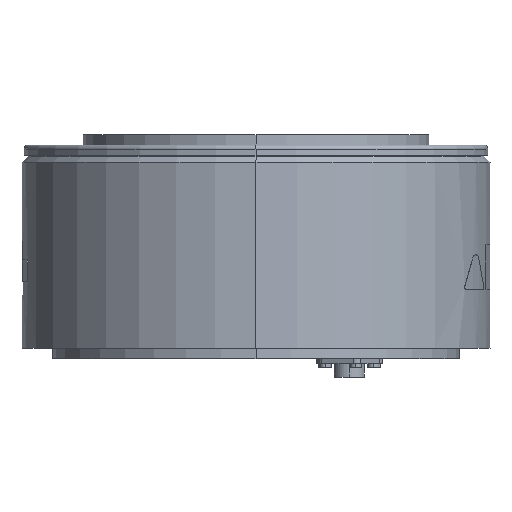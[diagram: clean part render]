
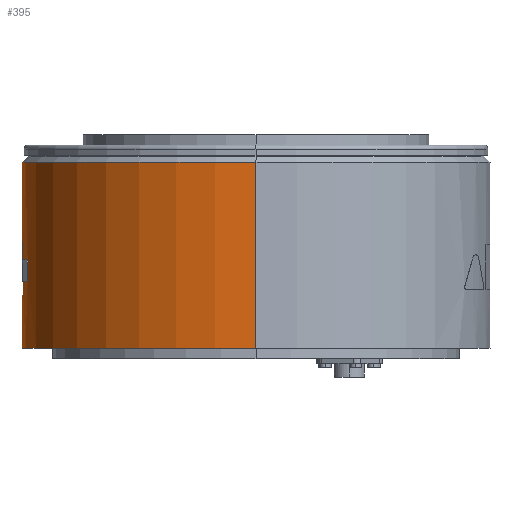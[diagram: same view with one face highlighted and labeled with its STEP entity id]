
A CAD part, left-side view. The second image highlights one B-rep face of the part: STEP entity #395.
In plain terms, the highlighted cylindrical face has radius 115 mm (diameter 230 mm), a partial arc.
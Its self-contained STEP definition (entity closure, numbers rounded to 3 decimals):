
#73 = VERTEX_POINT ( 'NONE', #2423 ) ;
#74 = VERTEX_POINT ( 'NONE', #2424 ) ;
#76 = VERTEX_POINT ( 'NONE', #2426 ) ;
#77 = VERTEX_POINT ( 'NONE', #2427 ) ;
#79 = VERTEX_POINT ( 'NONE', #2429 ) ;
#80 = VERTEX_POINT ( 'NONE', #2430 ) ;
#81 = VERTEX_POINT ( 'NONE', #2431 ) ;
#96 = VERTEX_POINT ( 'NONE', #2446 ) ;
#312 = EDGE_LOOP ( 'NONE', ( #3574, #3575, #3576, #3577 ) ) ;
#395 = ADVANCED_FACE ( 'NONE', ( #4531, #4539 ), #4533, .T. ) ;
#1715 = EDGE_LOOP ( 'NONE', ( #3570, #3571, #3572, #3573 ) ) ;
#2423 = CARTESIAN_POINT ( 'NONE',  ( -25., 112.25, 48.5 ) ) ;
#2424 = CARTESIAN_POINT ( 'NONE',  ( 25., 112.25, 38. ) ) ;
#2426 = CARTESIAN_POINT ( 'NONE',  ( 25., 112.25, 48.5 ) ) ;
#2427 = CARTESIAN_POINT ( 'NONE',  ( -115., 0., 96.5 ) ) ;
#2429 = CARTESIAN_POINT ( 'NONE',  ( 115., 0., 96.5 ) ) ;
#2430 = CARTESIAN_POINT ( 'NONE',  ( -115., 0., 5. ) ) ;
#2431 = CARTESIAN_POINT ( 'NONE',  ( 115., 0., 5. ) ) ;
#2446 = CARTESIAN_POINT ( 'NONE',  ( -25., 112.25, 38. ) ) ;
#3570 = ORIENTED_EDGE ( 'NONE', *, *, #9801, .F. ) ;
#3571 = ORIENTED_EDGE ( 'NONE', *, *, #9800, .F. ) ;
#3572 = ORIENTED_EDGE ( 'NONE', *, *, #9791, .F. ) ;
#3573 = ORIENTED_EDGE ( 'NONE', *, *, #9802, .F. ) ;
#3574 = ORIENTED_EDGE ( 'NONE', *, *, #9799, .T. ) ;
#3575 = ORIENTED_EDGE ( 'NONE', *, *, #9795, .T. ) ;
#3576 = ORIENTED_EDGE ( 'NONE', *, *, #9804, .F. ) ;
#3577 = ORIENTED_EDGE ( 'NONE', *, *, #9803, .F. ) ;
#4531 = FACE_BOUND ( 'NONE', #1715, .T. ) ;
#4533 = CYLINDRICAL_SURFACE ( 'NONE', #5029, 115. ) ;
#4539 = FACE_OUTER_BOUND ( 'NONE', #312, .T. ) ;
#5029 = AXIS2_PLACEMENT_3D ( 'NONE', #5113, #5112, #5111 ) ;
#5111 = DIRECTION ( 'NONE',  ( -1., 0., 0. ) ) ;
#5112 = DIRECTION ( 'NONE',  ( 0., 0., -1. ) ) ;
#5113 = CARTESIAN_POINT ( 'NONE',  ( 0., 0., 0. ) ) ;
#8999 = AXIS2_PLACEMENT_3D ( 'NONE', #9340, #9349, #9350 ) ;
#9001 = AXIS2_PLACEMENT_3D ( 'NONE', #9335, #9346, #9347 ) ;
#9003 = AXIS2_PLACEMENT_3D ( 'NONE', #9345, #9354, #9355 ) ;
#9004 = AXIS2_PLACEMENT_3D ( 'NONE', #9348, #9359, #9360 ) ;
#9041 = LINE ( 'NONE', #9325, #9042 ) ;
#9042 = VECTOR ( 'NONE', #9326, 1000. ) ;
#9049 = LINE ( 'NONE', #9336, #9050 ) ;
#9050 = VECTOR ( 'NONE', #9337, 1000. ) ;
#9052 = LINE ( 'NONE', #9351, #9055 ) ;
#9054 = LINE ( 'NONE', #9356, #9057 ) ;
#9055 = VECTOR ( 'NONE', #9352, 1000. ) ;
#9056 = CIRCLE ( 'NONE', #9001, 115. ) ;
#9057 = VECTOR ( 'NONE', #9357, 1000. ) ;
#9058 = CIRCLE ( 'NONE', #8999, 115. ) ;
#9059 = CIRCLE ( 'NONE', #9003, 115. ) ;
#9062 = CIRCLE ( 'NONE', #9004, 115. ) ;
#9325 = CARTESIAN_POINT ( 'NONE',  ( 25., 112.25, 0. ) ) ;
#9326 = DIRECTION ( 'NONE',  ( 0., 0., -1. ) ) ;
#9335 = CARTESIAN_POINT ( 'NONE',  ( 0., 0., 96.5 ) ) ;
#9336 = CARTESIAN_POINT ( 'NONE',  ( 115., 0., 0. ) ) ;
#9337 = DIRECTION ( 'NONE',  ( 0., 0., -1. ) ) ;
#9340 = CARTESIAN_POINT ( 'NONE',  ( 0., 0., 38. ) ) ;
#9345 = CARTESIAN_POINT ( 'NONE',  ( 0., 0., 48.5 ) ) ;
#9346 = DIRECTION ( 'NONE',  ( 0., 0., -1. ) ) ;
#9347 = DIRECTION ( 'NONE',  ( -1., 0., 0. ) ) ;
#9348 = CARTESIAN_POINT ( 'NONE',  ( 0., 0., 5. ) ) ;
#9349 = DIRECTION ( 'NONE',  ( 0., 0., 1. ) ) ;
#9350 = DIRECTION ( 'NONE',  ( -1., 0., 0. ) ) ;
#9351 = CARTESIAN_POINT ( 'NONE',  ( -25., 112.25, 0. ) ) ;
#9352 = DIRECTION ( 'NONE',  ( 0., 0., 1. ) ) ;
#9354 = DIRECTION ( 'NONE',  ( 0., 0., -1. ) ) ;
#9355 = DIRECTION ( 'NONE',  ( 1., 0., 0. ) ) ;
#9356 = CARTESIAN_POINT ( 'NONE',  ( -115., 0., 0. ) ) ;
#9357 = DIRECTION ( 'NONE',  ( 0., 0., -1. ) ) ;
#9359 = DIRECTION ( 'NONE',  ( 0., 0., -1. ) ) ;
#9360 = DIRECTION ( 'NONE',  ( -1., 0., 0. ) ) ;
#9791 = EDGE_CURVE ( 'NONE', #76, #74, #9041, .T. ) ;
#9795 = EDGE_CURVE ( 'NONE', #79, #81, #9049, .T. ) ;
#9799 = EDGE_CURVE ( 'NONE', #77, #79, #9056, .T. ) ;
#9800 = EDGE_CURVE ( 'NONE', #74, #96, #9058, .T. ) ;
#9801 = EDGE_CURVE ( 'NONE', #96, #73, #9052, .T. ) ;
#9802 = EDGE_CURVE ( 'NONE', #73, #76, #9059, .T. ) ;
#9803 = EDGE_CURVE ( 'NONE', #77, #80, #9054, .T. ) ;
#9804 = EDGE_CURVE ( 'NONE', #80, #81, #9062, .T. ) ;
